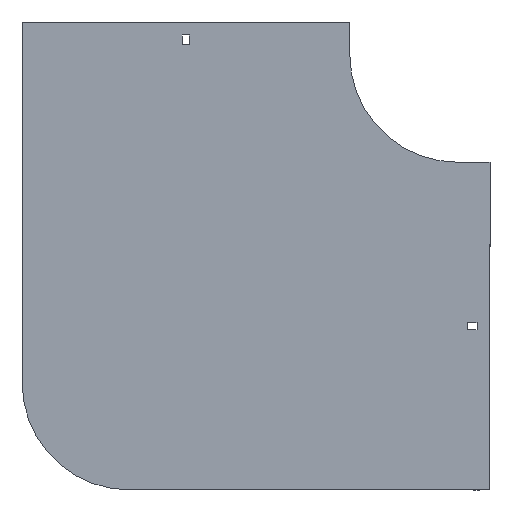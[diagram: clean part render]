
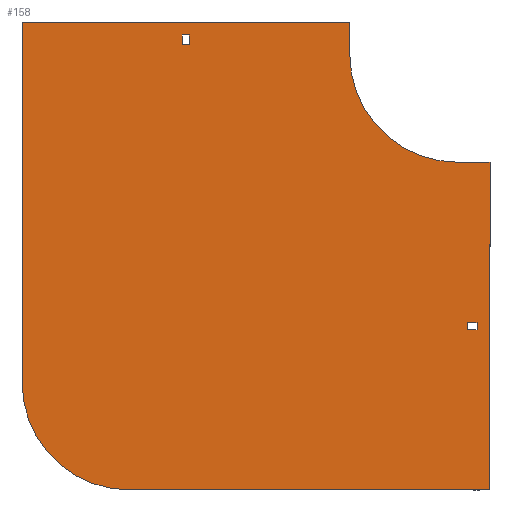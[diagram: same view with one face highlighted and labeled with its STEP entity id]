
A CAD part, front view. The second image highlights one B-rep face of the part: STEP entity #158.
In plain terms, the highlighted planar face has unit normal (0, -1, 0).
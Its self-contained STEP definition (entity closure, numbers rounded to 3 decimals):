
#87 = CARTESIAN_POINT ( 'NONE',  ( 30., 0., -100. ) ) ;
#91 = ORIENTED_EDGE ( 'NONE', *, *, #122, .T. ) ;
#108 = CARTESIAN_POINT ( 'NONE',  ( -304., 0., -304. ) ) ;
#122 = EDGE_CURVE ( 'NONE', #971, #1713, #893, .T. ) ;
#131 = PLANE ( 'NONE',  #1211 ) ;
#135 = VECTOR ( 'NONE', #1485, 1000. ) ;
#158 = ADVANCED_FACE ( 'NONE', ( #1208, #745, #1198 ), #131, .T. ) ;
#181 = VECTOR ( 'NONE', #303, 1000. ) ;
#199 = CARTESIAN_POINT ( 'NONE',  ( -255.25, 0., 18. ) ) ;
#208 = EDGE_LOOP ( 'NONE', ( #703, #1089, #1700, #1606, #216, #466, #664, #1136 ) ) ;
#216 = ORIENTED_EDGE ( 'NONE', *, *, #754, .F. ) ;
#229 = CARTESIAN_POINT ( 'NONE',  ( 18., 0., -255.25 ) ) ;
#231 = LINE ( 'NONE', #1275, #1750 ) ;
#303 = DIRECTION ( 'NONE',  ( 1., 0., 0. ) ) ;
#311 = VECTOR ( 'NONE', #497, 1000. ) ;
#343 = AXIS2_PLACEMENT_3D ( 'NONE', #108, #1153, #872 ) ;
#347 = CARTESIAN_POINT ( 'NONE',  ( -404., 0., 30. ) ) ;
#354 = EDGE_CURVE ( 'NONE', #651, #971, #1577, .T. ) ;
#377 = ORIENTED_EDGE ( 'NONE', *, *, #1716, .F. ) ;
#392 = DIRECTION ( 'NONE',  ( -1., 0., 0. ) ) ;
#412 = VECTOR ( 'NONE', #1241, 1000. ) ;
#417 = VERTEX_POINT ( 'NONE', #229 ) ;
#447 = EDGE_CURVE ( 'NONE', #727, #1387, #1568, .T. ) ;
#466 = ORIENTED_EDGE ( 'NONE', *, *, #1051, .F. ) ;
#477 = LINE ( 'NONE', #87, #602 ) ;
#487 = CARTESIAN_POINT ( 'NONE',  ( 30., 0., -404. ) ) ;
#494 = CARTESIAN_POINT ( 'NONE',  ( 30., 0., -404. ) ) ;
#495 = VECTOR ( 'NONE', #1101, 1000. ) ;
#497 = DIRECTION ( 'NONE',  ( 0., 0., 1. ) ) ;
#602 = VECTOR ( 'NONE', #1294, 1000. ) ;
#613 = CARTESIAN_POINT ( 'NONE',  ( -404., 0., 30. ) ) ;
#618 = CARTESIAN_POINT ( 'NONE',  ( 18., 0., -248.75 ) ) ;
#620 = LINE ( 'NONE', #1192, #181 ) ;
#629 = CARTESIAN_POINT ( 'NONE',  ( 9., 0., -248.75 ) ) ;
#631 = DIRECTION ( 'NONE',  ( 0., 0., -1. ) ) ;
#639 = CARTESIAN_POINT ( 'NONE',  ( 9., 0., -255.25 ) ) ;
#651 = VERTEX_POINT ( 'NONE', #1482 ) ;
#664 = ORIENTED_EDGE ( 'NONE', *, *, #678, .F. ) ;
#678 = EDGE_CURVE ( 'NONE', #686, #800, #1264, .T. ) ;
#686 = VERTEX_POINT ( 'NONE', #1326 ) ;
#695 = ORIENTED_EDGE ( 'NONE', *, *, #1428, .F. ) ;
#703 = ORIENTED_EDGE ( 'NONE', *, *, #1161, .F. ) ;
#718 = VECTOR ( 'NONE', #1391, 1000. ) ;
#722 = LINE ( 'NONE', #1324, #1345 ) ;
#727 = VERTEX_POINT ( 'NONE', #487 ) ;
#737 = CARTESIAN_POINT ( 'NONE',  ( 0., 0., 0. ) ) ;
#745 = FACE_OUTER_BOUND ( 'NONE', #208, .T. ) ;
#754 = EDGE_CURVE ( 'NONE', #878, #727, #477, .T. ) ;
#779 = CARTESIAN_POINT ( 'NONE',  ( -255.25, 0., 9. ) ) ;
#786 = CIRCLE ( 'NONE', #343, 100. ) ;
#796 = LINE ( 'NONE', #199, #718 ) ;
#800 = VERTEX_POINT ( 'NONE', #977 ) ;
#806 = EDGE_CURVE ( 'NONE', #1347, #686, #231, .T. ) ;
#808 = CARTESIAN_POINT ( 'NONE',  ( 9., 0., -255.25 ) ) ;
#822 = VECTOR ( 'NONE', #631, 1000. ) ;
#851 = CARTESIAN_POINT ( 'NONE',  ( -248.75, 0., 9. ) ) ;
#870 = VERTEX_POINT ( 'NONE', #1172 ) ;
#872 = DIRECTION ( 'NONE',  ( 0., 0., 1. ) ) ;
#878 = VERTEX_POINT ( 'NONE', #1636 ) ;
#893 = LINE ( 'NONE', #1053, #135 ) ;
#911 = LINE ( 'NONE', #1236, #1413 ) ;
#925 = LINE ( 'NONE', #944, #495 ) ;
#944 = CARTESIAN_POINT ( 'NONE',  ( 9., 0., -255.25 ) ) ;
#971 = VERTEX_POINT ( 'NONE', #851 ) ;
#975 = CARTESIAN_POINT ( 'NONE',  ( -248.75, 0., 9. ) ) ;
#977 = CARTESIAN_POINT ( 'NONE',  ( 0., 0., -100. ) ) ;
#993 = VERTEX_POINT ( 'NONE', #1066 ) ;
#1025 = DIRECTION ( 'NONE',  ( 0., 0., 1. ) ) ;
#1047 = DIRECTION ( 'NONE',  ( 0., -1., 0. ) ) ;
#1051 = EDGE_CURVE ( 'NONE', #800, #878, #620, .T. ) ;
#1053 = CARTESIAN_POINT ( 'NONE',  ( -255.25, 0., 9. ) ) ;
#1066 = CARTESIAN_POINT ( 'NONE',  ( -255.25, 0., 18. ) ) ;
#1070 = CARTESIAN_POINT ( 'NONE',  ( -304., 0., -404. ) ) ;
#1072 = VERTEX_POINT ( 'NONE', #629 ) ;
#1075 = DIRECTION ( 'NONE',  ( 0., 0., -1. ) ) ;
#1089 = ORIENTED_EDGE ( 'NONE', *, *, #1392, .F. ) ;
#1101 = DIRECTION ( 'NONE',  ( 1., 0., 0. ) ) ;
#1113 = DIRECTION ( 'NONE',  ( 1., 0., 0. ) ) ;
#1136 = ORIENTED_EDGE ( 'NONE', *, *, #806, .F. ) ;
#1139 = VERTEX_POINT ( 'NONE', #639 ) ;
#1153 = DIRECTION ( 'NONE',  ( 0., 1., 0. ) ) ;
#1161 = EDGE_CURVE ( 'NONE', #1421, #1347, #1707, .T. ) ;
#1171 = EDGE_CURVE ( 'NONE', #993, #651, #796, .T. ) ;
#1172 = CARTESIAN_POINT ( 'NONE',  ( -404., 0., -304. ) ) ;
#1176 = CARTESIAN_POINT ( 'NONE',  ( 0., 0., 0. ) ) ;
#1185 = DIRECTION ( 'NONE',  ( 0., -1., 0. ) ) ;
#1191 = VECTOR ( 'NONE', #1025, 1000. ) ;
#1192 = CARTESIAN_POINT ( 'NONE',  ( 0., 0., -100. ) ) ;
#1198 = FACE_BOUND ( 'NONE', #1864, .T. ) ;
#1208 = FACE_BOUND ( 'NONE', #1800, .T. ) ;
#1211 = AXIS2_PLACEMENT_3D ( 'NONE', #737, #1047, #1075 ) ;
#1236 = CARTESIAN_POINT ( 'NONE',  ( -404., 0., -304. ) ) ;
#1241 = DIRECTION ( 'NONE',  ( 0., 0., -1. ) ) ;
#1247 = ORIENTED_EDGE ( 'NONE', *, *, #1828, .F. ) ;
#1254 = CARTESIAN_POINT ( 'NONE',  ( -100., 0., 30. ) ) ;
#1264 = CIRCLE ( 'NONE', #1770, 100. ) ;
#1275 = CARTESIAN_POINT ( 'NONE',  ( -100., 0., 30. ) ) ;
#1294 = DIRECTION ( 'NONE',  ( 0., 0., -1. ) ) ;
#1324 = CARTESIAN_POINT ( 'NONE',  ( 9., 0., -248.75 ) ) ;
#1326 = CARTESIAN_POINT ( 'NONE',  ( -100., 0., 0. ) ) ;
#1345 = VECTOR ( 'NONE', #392, 1000. ) ;
#1347 = VERTEX_POINT ( 'NONE', #1254 ) ;
#1354 = EDGE_CURVE ( 'NONE', #1072, #1139, #1820, .T. ) ;
#1387 = VERTEX_POINT ( 'NONE', #1070 ) ;
#1391 = DIRECTION ( 'NONE',  ( 1., 0., 0. ) ) ;
#1392 = EDGE_CURVE ( 'NONE', #870, #1421, #911, .T. ) ;
#1413 = VECTOR ( 'NONE', #1709, 1000. ) ;
#1421 = VERTEX_POINT ( 'NONE', #613 ) ;
#1428 = EDGE_CURVE ( 'NONE', #417, #1658, #1528, .T. ) ;
#1436 = ORIENTED_EDGE ( 'NONE', *, *, #354, .T. ) ;
#1442 = VECTOR ( 'NONE', #1113, 1000. ) ;
#1474 = DIRECTION ( 'NONE',  ( 0., 0., -1. ) ) ;
#1479 = CARTESIAN_POINT ( 'NONE',  ( -255.25, 0., 9. ) ) ;
#1482 = CARTESIAN_POINT ( 'NONE',  ( -248.75, 0., 18. ) ) ;
#1485 = DIRECTION ( 'NONE',  ( -1., 0., 0. ) ) ;
#1491 = VECTOR ( 'NONE', #1579, 1000. ) ;
#1528 = LINE ( 'NONE', #1851, #311 ) ;
#1568 = LINE ( 'NONE', #494, #1491 ) ;
#1577 = LINE ( 'NONE', #975, #412 ) ;
#1579 = DIRECTION ( 'NONE',  ( -1., 0., 0. ) ) ;
#1606 = ORIENTED_EDGE ( 'NONE', *, *, #447, .F. ) ;
#1607 = EDGE_CURVE ( 'NONE', #1713, #993, #1627, .T. ) ;
#1627 = LINE ( 'NONE', #1479, #1191 ) ;
#1636 = CARTESIAN_POINT ( 'NONE',  ( 30., 0., -100. ) ) ;
#1640 = EDGE_CURVE ( 'NONE', #1387, #870, #786, .T. ) ;
#1658 = VERTEX_POINT ( 'NONE', #618 ) ;
#1700 = ORIENTED_EDGE ( 'NONE', *, *, #1640, .F. ) ;
#1707 = LINE ( 'NONE', #347, #1442 ) ;
#1709 = DIRECTION ( 'NONE',  ( 0., 0., 1. ) ) ;
#1713 = VERTEX_POINT ( 'NONE', #779 ) ;
#1716 = EDGE_CURVE ( 'NONE', #1139, #417, #925, .T. ) ;
#1750 = VECTOR ( 'NONE', #1879, 1000. ) ;
#1770 = AXIS2_PLACEMENT_3D ( 'NONE', #1176, #1185, #1474 ) ;
#1784 = ORIENTED_EDGE ( 'NONE', *, *, #1171, .T. ) ;
#1786 = ORIENTED_EDGE ( 'NONE', *, *, #1354, .F. ) ;
#1800 = EDGE_LOOP ( 'NONE', ( #1868, #1784, #1436, #91 ) ) ;
#1820 = LINE ( 'NONE', #808, #822 ) ;
#1828 = EDGE_CURVE ( 'NONE', #1658, #1072, #722, .T. ) ;
#1851 = CARTESIAN_POINT ( 'NONE',  ( 18., 0., -255.25 ) ) ;
#1864 = EDGE_LOOP ( 'NONE', ( #695, #377, #1786, #1247 ) ) ;
#1868 = ORIENTED_EDGE ( 'NONE', *, *, #1607, .T. ) ;
#1879 = DIRECTION ( 'NONE',  ( 0., 0., -1. ) ) ;
